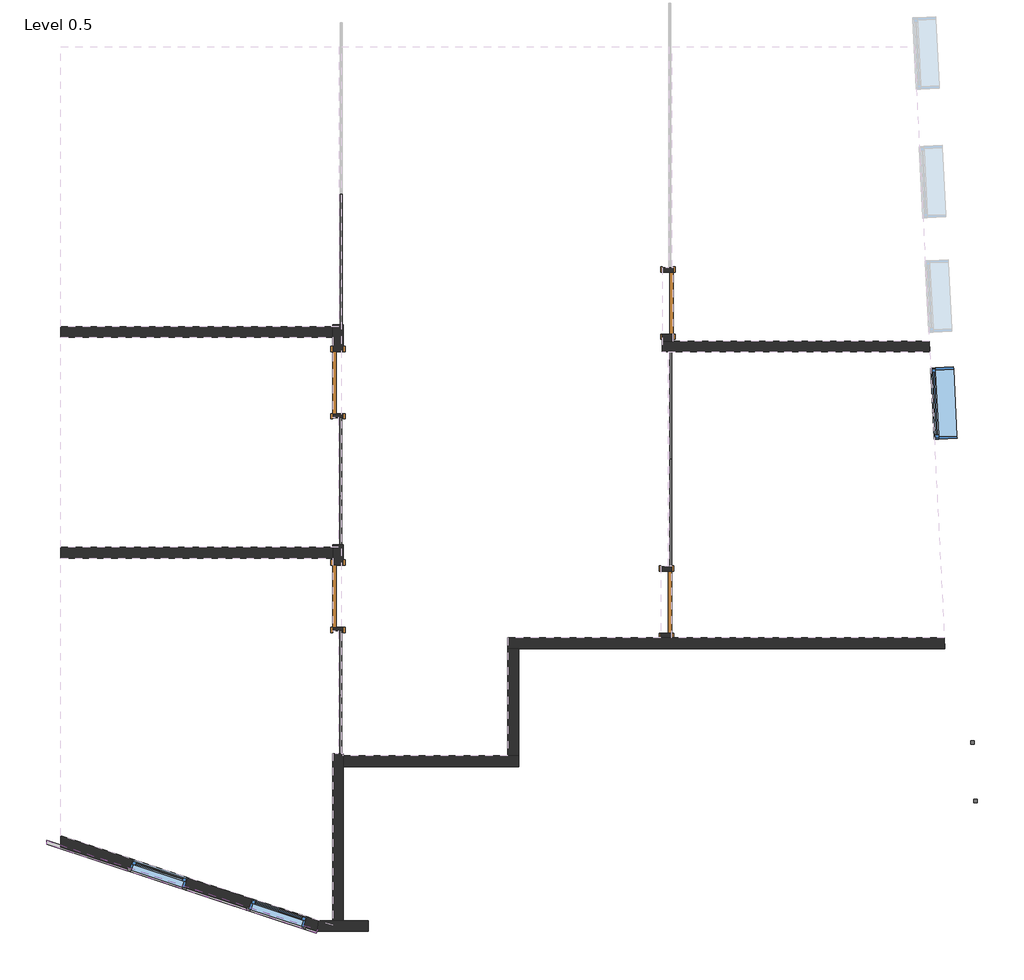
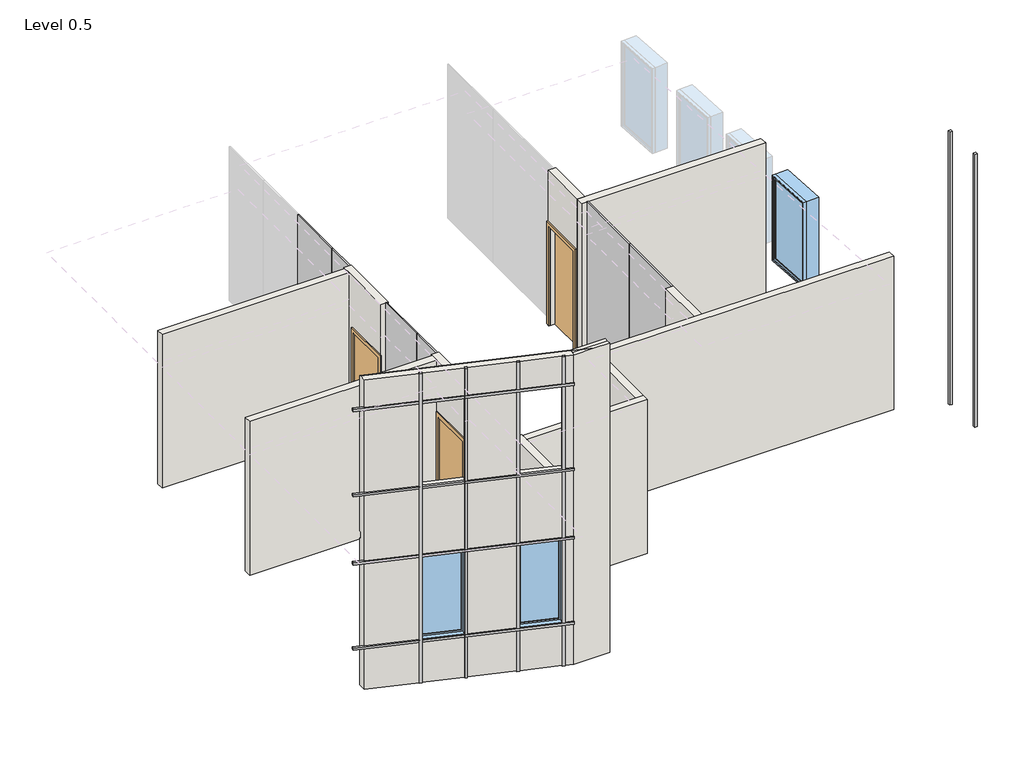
# One storey, part 1 of 3: 13 walls, 10 proxies, 8 plates, 4 doors, 3 windows.
"""IFC4 building model written with IfcOpenShell, lengths in millimetres."""

from ifc_helpers import new_model, si_unit, frame, origin, place, context, project, spatial, polyline, outline, extrude, faceted_brep, transform, mapped, element, save
from components import m_single_flush_0864_x_2134mm_191ab4f9, system_panel_glazed_aad28971, system_panel_glazed_77398edd, system_panel_glazed_36099b5c, system_panel_glazed_c9b22899, system_panel_glazed_ebff84d4, system_panel_glazed_b1d20705, system_panel_glazed_c9f14143, m_fixed_0815_x_1830mm_2_422ed95c, m_fixed_1000_x_1830mm_2_ae03b894

model = new_model("IFC4")

# Units and contexts
model_context = context("Model", 3, world=origin())
ifc_project = project(units=[si_unit("LENGTHUNIT", "METRE", prefix="MILLI")], contexts=[model_context])

# Site, building, storey
site = spatial("IfcSite", under=ifc_project)
building = spatial("IfcBuilding", under=site)
storey = spatial("IfcBuildingStorey", under=building, Name="Level 0.5", Elevation=1200.0)

# Proxies
placement = place(None, origin())
element("IfcBuildingElementProxy", 1, Name="Reveal", ObjectType="Reveal", at=placement, inside=storey, context=model_context, shape_type="SweptSolid", body=[
    extrude(outline(polyline([(12669.2063801, -15377.1775049), (12719.141693, -15374.6349607), (12721.6842372, -15424.5702735), (12671.7489244, -15427.1128178), (12669.2063801, -15377.1775049)])), frame((0.0, 0.0, 1981.0), z_axis=(0.0, 0.0, 1.0), x_axis=(1.0, 0.0, 0.0)), (0.0, 0.0, 1.0), 5869.0),
])
element("IfcBuildingElementProxy", 2, Name="Reveal", ObjectType="Reveal", at=placement, inside=storey, context=model_context, shape_type="SweptSolid", body=[
    extrude(outline(polyline([(12710.904106, -16196.1166356), (12760.8394189, -16193.5740913), (12763.3819631, -16243.5094042), (12713.4466503, -16246.0519484), (12710.904106, -16196.1166356)])), frame((0.0, 0.0, 1981.0), z_axis=(0.0, 0.0, 1.0), x_axis=(1.0, 0.0, 0.0)), (0.0, 0.0, 1.0), 5869.0),
])
element("IfcBuildingElementProxy", 3, Name="Reveal", ObjectType="Reveal", at=placement, inside=storey, context=model_context, shape_type="SweptSolid", body=[
    extrude(outline(polyline([(-250.0000039, -16822.8406854), (-250.0000039, -16770.1985601), (3533.8686372, -18016.4496943), (3518.2272196, -18063.9401781), (-250.0000039, -16822.8406854)])), frame((0.0, 0.0, 5375.0), z_axis=(0.0, 0.0, 1.0), x_axis=(1.0, 0.0, 0.0)), (0.0, 0.0, 1.0), 50.0),
])
element("IfcBuildingElementProxy", 4, Name="Reveal", ObjectType="Reveal", at=placement, inside=storey, context=model_context, shape_type="SweptSolid", body=[
    extrude(outline(polyline([(-250.0000039, -16822.8406854), (-250.0000039, -16770.1985601), (3533.8686372, -18016.4496943), (3518.2272196, -18063.9401781), (-250.0000039, -16822.8406854)])), frame((0.0, 0.0, 7205.0), z_axis=(0.0, 0.0, 1.0), x_axis=(1.0, 0.0, 0.0)), (0.0, 0.0, 1.0), 50.0),
])
element("IfcBuildingElementProxy", 5, Name="Reveal", ObjectType="Reveal", at=placement, inside=storey, context=model_context, shape_type="SweptSolid", body=[
    extrude(outline(polyline([(-250.0000039, -16822.8406854), (-250.0000039, -16770.1985601), (3533.8686372, -18016.4496943), (3518.2272196, -18063.9401781), (-250.0000039, -16822.8406854)])), frame((0.0, 0.0, 3905.0), z_axis=(0.0, 0.0, 1.0), x_axis=(1.0, 0.0, 0.0)), (0.0, 0.0, 1.0), 50.0),
])
element("IfcBuildingElementProxy", 6, Name="Reveal", ObjectType="Reveal", at=placement, inside=storey, context=model_context, shape_type="SweptSolid", body=[
    extrude(outline(polyline([(-250.0000039, -16822.8406854), (-250.0000039, -16770.1985601), (3533.8686372, -18016.4496943), (3518.2272196, -18063.9401781), (-250.0000039, -16822.8406854)])), frame((0.0, 0.0, 2075.0), z_axis=(0.0, 0.0, 1.0), x_axis=(1.0, 0.0, 0.0)), (0.0, 0.0, 1.0), 50.0),
])
element("IfcBuildingElementProxy", 7, Name="Reveal", ObjectType="Reveal", at=placement, inside=storey, context=model_context, shape_type="SweptSolid", body=[
    extrude(outline(polyline([(937.8412915, -17161.4247632), (922.1998739, -17208.9152471), (874.7093901, -17193.2738296), (890.3508076, -17145.7833457), (937.8412915, -17161.4247632)])), frame((0.0, 0.0, 1200.0), z_axis=(0.0, 0.0, 1.0), x_axis=(1.0, 0.0, 0.0)), (0.0, 0.0, 1.0), 6650.0),
])
element("IfcBuildingElementProxy", 8, Name="Reveal", ObjectType="Reveal", at=placement, inside=storey, context=model_context, shape_type="SweptSolid", body=[
    extrude(outline(polyline([(1711.9361783, -17416.3798693), (1696.2947608, -17463.8703532), (1648.8042769, -17448.2289356), (1664.4456945, -17400.7384518), (1711.9361783, -17416.3798693)])), frame((0.0, 0.0, 1200.0), z_axis=(0.0, 0.0, 1.0), x_axis=(1.0, 0.0, 0.0)), (0.0, 0.0, 1.0), 6650.0),
])
element("IfcBuildingElementProxy", 9, Name="Reveal", ObjectType="Reveal", at=placement, inside=storey, context=model_context, shape_type="SweptSolid", body=[
    extrude(outline(polyline([(2604.7572749, -17710.4385192), (2589.1158573, -17757.9290031), (2541.6253735, -17742.2875855), (2557.266791, -17694.7971017), (2604.7572749, -17710.4385192)])), frame((0.0, 0.0, 1200.0), z_axis=(0.0, 0.0, 1.0), x_axis=(1.0, 0.0, 0.0)), (0.0, 0.0, 1.0), 6650.0),
])
element("IfcBuildingElementProxy", 10, Name="Reveal", ObjectType="Reveal", at=placement, inside=storey, context=model_context, shape_type="SweptSolid", body=[
    extrude(outline(polyline([(3378.8521618, -17965.3936253), (3363.2107442, -18012.8841091), (3315.7202603, -17997.2426916), (3331.3616779, -17949.7522077), (3378.8521618, -17965.3936253)])), frame((0.0, 0.0, 1200.0), z_axis=(0.0, 0.0, 1.0), x_axis=(1.0, 0.0, 0.0)), (0.0, 0.0, 1.0), 6650.0),
])

# Doors
m_single_flush_0864_x_2134mm_shape = m_single_flush_0864_x_2134mm_191ab4f9(model_context)
element("IfcDoor", 11, ObjectType="M_Single-Flush : 0864 x 2134mm", at=placement, inside=storey, context=model_context, shape_type="MappedRepresentation", body=[
    mapped(m_single_flush_0864_x_2134mm_shape, transform((3824.6376114, -10369.5773389, 1200.0), x_axis=(0.0, 1.0, 0.0), y_axis=(-1.0, 0.0, 0.0), z_axis=(0.0, 0.0, 1.0))),
])
element("IfcDoor", 12, ObjectType="M_Single-Flush : 0864 x 2134mm", at=placement, inside=storey, context=model_context, shape_type="MappedRepresentation", body=[
    mapped(m_single_flush_0864_x_2134mm_shape, transform((3824.6376114, -13355.8791407, 1200.0), x_axis=(0.0, 1.0, 0.0), y_axis=(-1.0, 0.0, 0.0), z_axis=(0.0, 0.0, 1.0))),
])
element("IfcDoor", 13, ObjectType="M_Single-Flush : 0864 x 2134mm", at=placement, inside=storey, context=model_context, shape_type="MappedRepresentation", body=[
    mapped(m_single_flush_0864_x_2134mm_shape, transform((8435.4667664, -9258.0867626, 1200.0), x_axis=(0.0, -1.0, 0.0), y_axis=(1.0, 0.0, 0.0), z_axis=(0.0, 0.0, 1.0))),
])
element("IfcDoor", 14, ObjectType="M_Single-Flush : 0864 x 2134mm", at=placement, inside=storey, context=model_context, shape_type="MappedRepresentation", body=[
    mapped(m_single_flush_0864_x_2134mm_shape, transform((8414.4667664, -13438.8073472, 1200.0), x_axis=(0.0, -1.0, 0.0), y_axis=(1.0, 0.0, 0.0), z_axis=(0.0, 0.0, 1.0))),
])

# Plates
system_panel_glazed_shape = system_panel_glazed_aad28971(model_context)
element("IfcPlate", 15, ObjectType="System Panel : Glazed", at=placement, inside=storey, context=model_context, shape_type="MappedRepresentation", body=[
    mapped(system_panel_glazed_shape, transform((8439.9667664, -10690.0867626, 1200.0), x_axis=(0.0, -1.0, 0.0), y_axis=(1.0, 0.0, 0.0), z_axis=(0.0, 0.0, 1.0))),
])
element("IfcPlate", 16, ObjectType="System Panel : Glazed", at=placement, inside=storey, context=model_context, shape_type="MappedRepresentation", body=[
    mapped(system_panel_glazed_shape, transform((8439.9667664, -12190.0867626, 1200.0), x_axis=(0.0, -1.0, 0.0), y_axis=(1.0, 0.0, 0.0), z_axis=(0.0, 0.0, 1.0))),
])
system_panel_glazed_2_shape = system_panel_glazed_77398edd(model_context)
element("IfcPlate", 17, ObjectType="System Panel : Glazed", at=placement, inside=storey, context=model_context, shape_type="MappedRepresentation", body=[
    mapped(system_panel_glazed_2_shape, transform((3834.6376114, -8338.848693, 1200.0), x_axis=(0.0, -1.0, 0.0), y_axis=(1.0, 0.0, 0.0), z_axis=(0.0, 0.0, 1.0))),
])
system_panel_glazed_3_shape = system_panel_glazed_36099b5c(model_context)
element("IfcPlate", 18, ObjectType="System Panel : Glazed", at=placement, inside=storey, context=model_context, shape_type="MappedRepresentation", body=[
    mapped(system_panel_glazed_3_shape, transform((3834.6376114, -9248.848693, 1200.0), x_axis=(0.0, -1.0, 0.0), y_axis=(1.0, 0.0, 0.0), z_axis=(0.0, 0.0, 1.0))),
])
system_panel_glazed_4_shape = system_panel_glazed_c9b22899(model_context)
element("IfcPlate", 19, ObjectType="System Panel : Glazed", at=placement, inside=storey, context=model_context, shape_type="MappedRepresentation", body=[
    mapped(system_panel_glazed_4_shape, transform((3824.6376114, -11407.1675364, 1200.0), x_axis=(0.0, -1.0, 0.0), y_axis=(1.0, 0.0, 0.0), z_axis=(0.0, 0.0, 1.0))),
])
system_panel_glazed_5_shape = system_panel_glazed_ebff84d4(model_context)
element("IfcPlate", 20, ObjectType="System Panel : Glazed", at=placement, inside=storey, context=model_context, shape_type="MappedRepresentation", body=[
    mapped(system_panel_glazed_5_shape, transform((3824.6376114, -12297.1675364, 1200.0), x_axis=(0.0, -1.0, 0.0), y_axis=(1.0, 0.0, 0.0), z_axis=(0.0, 0.0, 1.0))),
])
system_panel_glazed_6_shape = system_panel_glazed_b1d20705(model_context)
element("IfcPlate", 21, ObjectType="System Panel : Glazed", at=placement, inside=storey, context=model_context, shape_type="MappedRepresentation", body=[
    mapped(system_panel_glazed_6_shape, transform((3824.6376114, -14287.1675364, 1200.0), x_axis=(0.0, -1.0, 0.0), y_axis=(1.0, 0.0, 0.0), z_axis=(0.0, 0.0, 1.0))),
])
system_panel_glazed_7_shape = system_panel_glazed_c9f14143(model_context)
element("IfcPlate", 22, ObjectType="System Panel : Glazed", at=placement, inside=storey, context=model_context, shape_type="MappedRepresentation", body=[
    mapped(system_panel_glazed_7_shape, transform((3824.6376114, -15147.1675364, 1200.0), x_axis=(0.0, -1.0, 0.0), y_axis=(1.0, 0.0, 0.0), z_axis=(0.0, 0.0, 1.0))),
])

# Walls
element("IfcWall", 23, ObjectType="Generic - 15cm-gypsum-kamposite 2", at=placement, inside=storey, context=model_context, shape_type="Brep", body=[
    faceted_brep([(-50.0000039, -16862.3914197, 7205.0), (-50.0000039, -16862.3914197, 5425.0), (882.5300988, -17169.5285876, 5425.0), (882.5300988, -17169.5285876, 7205.0), (-50.0000039, -16862.3914197, 7850.0), (-50.0000039, -16862.3914197, 7255.0), (882.5300988, -17169.5285876, 7255.0), (882.5300988, -17169.5285876, 7850.0), (-50.0000039, -16862.3914197, 5375.0), (-50.0000039, -16862.3914197, 3955.0), (882.5300988, -17169.5285876, 3955.0), (882.5300988, -17169.5285876, 5375.0), (-50.0000039, -16862.3914197, 2075.0), (-50.0000039, -16862.3914197, 1200.0), (882.5300988, -17169.5285876, 1200.0), (882.5300988, -17169.5285876, 2075.0), (-50.0000039, -16862.3914197, 3905.0), (-50.0000039, -16862.3914197, 2125.0), (882.5300988, -17169.5285876, 2125.0), (882.5300988, -17169.5285876, 3905.0), (930.0205827, -17185.1700052, 2075.0), (930.0205827, -17185.1700052, 1200.0), (1656.6249857, -17424.4836937, 1200.0), (1656.6249857, -17424.4836937, 2075.0), (930.0205827, -17185.1700052, 7850.0), (930.0205827, -17185.1700052, 7255.0), (1656.6249857, -17424.4836937, 7255.0), (1656.6249857, -17424.4836937, 7850.0), (930.0205827, -17185.1700052, 5375.0), (930.0205827, -17185.1700052, 3955.0), (1656.6249857, -17424.4836937, 3955.0), (1656.6249857, -17424.4836937, 5375.0), (1704.1154696, -17440.1251112, 7205.0), (1704.1154696, -17440.1251112, 5425.0), (2549.4460822, -17718.5423436, 5425.0), (2549.4460822, -17718.5423436, 7205.0), (1704.1154696, -17440.1251112, 3905.0), (1704.1154696, -17440.1251112, 2125.0), (2549.4460822, -17718.5423436, 2125.0), (2549.4460822, -17718.5423436, 3905.0), (1704.1154696, -17440.1251112, 7850.0), (1704.1154696, -17440.1251112, 7255.0), (2549.4460822, -17718.5423436, 7255.0), (2549.4460822, -17718.5423436, 7850.0), (1704.1154696, -17440.1251112, 5375.0), (1704.1154696, -17440.1251112, 3955.0), (2549.4460822, -17718.5423436, 3955.0), (2549.4460822, -17718.5423436, 5375.0), (1704.1154696, -17440.1251112, 2075.0), (1704.1154696, -17440.1251112, 1200.0), (2549.4460822, -17718.5423436, 1200.0), (2549.4460822, -17718.5423436, 2075.0), (2596.9365661, -17734.1837612, 7850.0), (2596.9365661, -17734.1837612, 7255.0), (3323.5409691, -17973.4974497, 7255.0), (3323.5409691, -17973.4974497, 7850.0), (2596.9365661, -17734.1837612, 5375.0), (2596.9365661, -17734.1837612, 3955.0), (3323.5409691, -17973.4974497, 3955.0), (3323.5409691, -17973.4974497, 5375.0), (2596.9365661, -17734.1837612, 2075.0), (2596.9365661, -17734.1837612, 1200.0), (3323.5409691, -17973.4974497, 1200.0), (3323.5409691, -17973.4974497, 2075.0), (3526.0479284, -18040.1949362, 5425.0), (3526.0479284, -18040.1949362, 7205.0), (3371.031453, -17989.1388672, 7205.0), (3371.031453, -17989.1388672, 5425.0), (3526.0479284, -18040.1949362, 7255.0), (3526.0479284, -18040.1949362, 7850.0), (3371.031453, -17989.1388672, 7850.0), (3371.031453, -17989.1388672, 7255.0), (3526.0479284, -18040.1949362, 3955.0), (3526.0479284, -18040.1949362, 5375.0), (3371.031453, -17989.1388672, 5375.0), (3371.031453, -17989.1388672, 3955.0), (3526.0479284, -18040.1949362, 1200.0), (3526.0479284, -18040.1949362, 2075.0), (3371.031453, -17989.1388672, 2075.0), (3371.031453, -17989.1388672, 1200.0), (3526.0479284, -18040.1949362, 2125.0), (3526.0479284, -18040.1949362, 3905.0), (3371.031453, -17989.1388672, 3905.0), (3371.031453, -17989.1388672, 2125.0), (3550.1139966, -17890.1949362, 1200.0), (-50.0000039, -16704.4650439, 1200.0), (-50.0000039, -16704.4650439, 4350.0), (3550.1139966, -17890.1949362, 4350.0), (2620.1155768, -17583.8916008, 3930.0), (2620.1155768, -17583.8916008, 2100.0), (3394.2104637, -17838.8467069, 2100.0), (3394.2104637, -17838.8467069, 3930.0), (953.1995934, -17034.8778448, 3930.0), (953.1995934, -17034.8778448, 2100.0), (1727.2944803, -17289.8329509, 2100.0), (1727.2944803, -17289.8329509, 3930.0), (-50.0000039, -16704.4650439, 4500.0), (-50.0000039, -16704.4650439, 7850.0), (3550.1139966, -17890.1949362, 7850.0), (3550.1139966, -17890.1949362, 4500.0), (953.1995934, -17034.8778448, 7230.0), (953.1995934, -17034.8778448, 5400.0), (1727.2944803, -17289.8329509, 5400.0), (1727.2944803, -17289.8329509, 7230.0), (2620.1155768, -17583.8916008, 7230.0), (2620.1155768, -17583.8916008, 5400.0), (3394.2104637, -17838.8467069, 5400.0), (3394.2104637, -17838.8467069, 7230.0), (3378.8521618, -17965.3936253, 1200.0), (3331.3616779, -17949.7522077, 1200.0), (2604.7572749, -17710.4385192, 1200.0), (2557.266791, -17694.7971017, 1200.0), (1711.9361783, -17416.3798693, 1200.0), (1664.4456945, -17400.7384518, 1200.0), (937.8412915, -17161.4247632, 1200.0), (890.3508076, -17145.7833457, 1200.0), (-50.0000039, -16836.0703571, 2075.0), (-50.0000039, -16836.0703571, 2125.0), (-50.0000039, -16836.0703571, 3905.0), (-50.0000039, -16836.0703571, 3955.0), (-50.0000039, -16836.0703571, 5375.0), (-50.0000039, -16836.0703571, 5425.0), (-50.0000039, -16836.0703571, 7205.0), (-50.0000039, -16836.0703571, 7255.0), (-50.0000039, -16725.521894, 7850.0), (-50.0000039, -16725.521894, 4500.0), (-50.0000039, -16725.521894, 4350.0), (3546.9051875, -17910.1949362, 4350.0), (3546.9051875, -17910.1949362, 4500.0), (890.3508076, -17145.7833457, 7850.0), (937.8412915, -17161.4247632, 7850.0), (1664.4456945, -17400.7384518, 7850.0), (1711.9361783, -17416.3798693, 7850.0), (2557.266791, -17694.7971017, 7850.0), (2604.7572749, -17710.4385192, 7850.0), (3331.3616779, -17949.7522077, 7850.0), (3378.8521618, -17965.3936253, 7850.0), (3546.9051875, -17910.1949362, 7850.0), (3530.0589398, -18015.1949362, 7255.0), (3530.0589398, -18015.1949362, 7205.0), (3530.0589398, -18015.1949362, 5425.0), (3530.0589398, -18015.1949362, 5375.0), (3530.0589398, -18015.1949362, 3955.0), (3530.0589398, -18015.1949362, 3905.0), (3530.0589398, -18015.1949362, 2125.0), (3530.0589398, -18015.1949362, 2075.0), (2581.0120329, -17702.6178105, 3930.0), (2581.0120329, -17702.6178105, 2100.0), (3355.1069198, -17957.5729165, 3930.0), (3355.1069198, -17957.5729165, 2100.0), (914.0960495, -17153.6040545, 3930.0), (914.0960495, -17153.6040545, 2100.0), (1688.1909364, -17408.5591605, 3930.0), (1688.1909364, -17408.5591605, 2100.0), (914.0960495, -17153.6040545, 7230.0), (914.0960495, -17153.6040545, 5400.0), (1688.1909364, -17408.5591605, 7230.0), (1688.1909364, -17408.5591605, 5400.0), (2581.0120329, -17702.6178105, 7230.0), (2581.0120329, -17702.6178105, 5400.0), (3355.1069198, -17957.5729165, 7230.0), (3355.1069198, -17957.5729165, 5400.0), (890.3508076, -17145.7833457, 5375.0), (890.3508076, -17145.7833457, 3955.0), (890.3508076, -17145.7833457, 3905.0), (890.3508076, -17145.7833457, 2125.0), (890.3508076, -17145.7833457, 2075.0), (937.8412915, -17161.4247632, 2075.0), (1664.4456945, -17400.7384518, 2075.0), (1711.9361783, -17416.3798693, 2075.0), (2557.266791, -17694.7971017, 2075.0), (2604.7572749, -17710.4385192, 2075.0), (3331.3616779, -17949.7522077, 2075.0), (3378.8521618, -17965.3936253, 2075.0), (3378.8521618, -17965.3936253, 2125.0), (3378.8521618, -17965.3936253, 3905.0), (3378.8521618, -17965.3936253, 3955.0), (3378.8521618, -17965.3936253, 5375.0), (3378.8521618, -17965.3936253, 5425.0), (3378.8521618, -17965.3936253, 7205.0), (3378.8521618, -17965.3936253, 7255.0), (3331.3616779, -17949.7522077, 7255.0), (2604.7572749, -17710.4385192, 7255.0), (2557.266791, -17694.7971017, 7255.0), (1711.9361783, -17416.3798693, 7255.0), (1664.4456945, -17400.7384518, 7255.0), (937.8412915, -17161.4247632, 7255.0), (890.3508076, -17145.7833457, 7255.0), (890.3508076, -17145.7833457, 7205.0), (890.3508076, -17145.7833457, 5425.0), (937.8412915, -17161.4247632, 3955.0), (937.8412915, -17161.4247632, 5375.0), (1664.4456945, -17400.7384518, 5375.0), (1664.4456945, -17400.7384518, 3955.0), (1711.9361783, -17416.3798693, 3955.0), (1711.9361783, -17416.3798693, 5375.0), (2557.266791, -17694.7971017, 5375.0), (2557.266791, -17694.7971017, 3955.0), (1711.9361783, -17416.3798693, 5425.0), (1711.9361783, -17416.3798693, 7205.0), (2557.266791, -17694.7971017, 7205.0), (2557.266791, -17694.7971017, 5425.0), (1711.9361783, -17416.3798693, 2125.0), (1711.9361783, -17416.3798693, 3905.0), (2557.266791, -17694.7971017, 3905.0), (2557.266791, -17694.7971017, 2125.0), (2604.7572749, -17710.4385192, 5375.0), (3331.3616779, -17949.7522077, 5375.0), (3331.3616779, -17949.7522077, 3955.0), (2604.7572749, -17710.4385192, 3955.0)], [[[0, 1, 2, 3]], [[4, 5, 6, 7]], [[8, 9, 10, 11]], [[12, 13, 14, 15]], [[16, 17, 18, 19]], [[20, 21, 22, 23]], [[24, 25, 26, 27]], [[28, 29, 30, 31]], [[32, 33, 34, 35]], [[36, 37, 38, 39]], [[40, 41, 42, 43]], [[44, 45, 46, 47]], [[48, 49, 50, 51]], [[52, 53, 54, 55]], [[56, 57, 58, 59]], [[60, 61, 62, 63]], [[64, 65, 66, 67]], [[68, 69, 70, 71]], [[72, 73, 74, 75]], [[76, 77, 78, 79]], [[80, 81, 82, 83]], [[84, 85, 86, 87], [88, 89, 90, 91], [92, 93, 94, 95]], [[96, 97, 98, 99], [100, 101, 102, 103], [104, 105, 106, 107]], [[85, 84, 76, 79, 108, 109, 62, 61, 110, 111, 50, 49, 112, 113, 22, 21, 114, 115, 14, 13]], [[85, 13, 12, 116, 117, 17, 16, 118, 119, 9, 8, 120, 121, 1, 0, 122, 123, 5, 4, 124, 97, 96, 125, 126, 86]], [[126, 127, 87, 86]], [[128, 125, 96, 99]], [[127, 126, 125, 128]], [[124, 4, 7, 129, 130, 24, 27, 131, 132, 40, 43, 133, 134, 52, 55, 135, 136, 70, 69, 137]], [[137, 98, 97, 124]], [[76, 84, 87, 127, 128, 99, 98, 137, 69, 68, 138, 139, 65, 64, 140, 141, 73, 72, 142, 143, 81, 80, 144, 145, 77]], [[89, 88, 146, 147]], [[88, 91, 148, 146]], [[91, 90, 149, 148]], [[90, 89, 147, 149]], [[93, 92, 150, 151]], [[92, 95, 152, 150]], [[95, 94, 153, 152]], [[94, 93, 151, 153]], [[101, 100, 154, 155]], [[100, 103, 156, 154]], [[103, 102, 157, 156]], [[102, 101, 155, 157]], [[105, 104, 158, 159]], [[104, 107, 160, 158]], [[107, 106, 161, 160]], [[106, 105, 159, 161]], [[121, 120, 162, 163, 119, 118, 164, 165, 117, 116, 166, 115, 114, 167, 168, 113, 112, 169, 170, 111, 110, 171, 172, 109, 108, 173, 145, 144, 174, 175, 143, 142, 176, 177, 141, 140, 178, 179, 139, 138, 180, 136, 135, 181, 182, 134, 133, 183, 184, 132, 131, 185, 186, 130, 129, 187, 123, 122, 188, 189], [190, 191, 192, 193], [151, 150, 152, 153], [155, 154, 156, 157], [194, 195, 196, 197], [198, 199, 200, 201], [202, 203, 204, 205], [159, 158, 160, 161], [147, 146, 148, 149], [206, 207, 208, 209]], [[120, 8, 11, 162]], [[191, 28, 31, 192]], [[195, 44, 47, 196]], [[206, 56, 59, 207]], [[73, 141, 177, 74]], [[1, 121, 189, 2]], [[33, 198, 201, 34]], [[140, 64, 67, 178]], [[122, 0, 3, 188]], [[199, 32, 35, 200]], [[65, 139, 179, 66]], [[5, 123, 187, 6]], [[25, 186, 185, 26]], [[41, 184, 183, 42]], [[53, 182, 181, 54]], [[138, 68, 71, 180]], [[118, 16, 19, 164]], [[203, 36, 39, 204]], [[81, 143, 175, 82]], [[9, 119, 163, 10]], [[29, 190, 193, 30]], [[45, 194, 197, 46]], [[57, 209, 208, 58]], [[142, 72, 75, 176]], [[116, 12, 15, 166]], [[167, 20, 23, 168]], [[169, 48, 51, 170]], [[171, 60, 63, 172]], [[77, 145, 173, 78]], [[17, 117, 165, 18]], [[37, 202, 205, 38]], [[144, 80, 83, 174]], [[187, 129, 7, 6]], [[189, 188, 3, 2]], [[163, 162, 11, 10]], [[165, 164, 19, 18]], [[115, 166, 15, 14]], [[130, 186, 25, 24]], [[191, 190, 29, 28]], [[167, 114, 21, 20]], [[185, 131, 27, 26]], [[193, 192, 31, 30]], [[113, 168, 23, 22]], [[132, 184, 41, 40]], [[195, 194, 45, 44]], [[199, 198, 33, 32]], [[203, 202, 37, 36]], [[169, 112, 49, 48]], [[183, 133, 43, 42]], [[197, 196, 47, 46]], [[201, 200, 35, 34]], [[205, 204, 39, 38]], [[111, 170, 51, 50]], [[134, 182, 53, 52]], [[206, 209, 57, 56]], [[171, 110, 61, 60]], [[181, 135, 55, 54]], [[208, 207, 59, 58]], [[109, 172, 63, 62]], [[136, 180, 71, 70]], [[177, 176, 75, 74]], [[179, 178, 67, 66]], [[175, 174, 83, 82]], [[173, 108, 79, 78]]]),
])
element("IfcWall", 24, ObjectType="Generic - 15cm-gypsum-kamposite 2", at=placement, inside=storey, context=model_context, shape_type="Brep", body=[
    faceted_brep([(4250.0200506, -17890.1949362, 7850.0), (4250.0200506, -17890.1949362, 4500.0), (3550.1139966, -17890.1949362, 4500.0), (3550.1139966, -17890.1949362, 7850.0), (4250.0200506, -17890.1949362, 1200.0), (3899.6376114, -17890.1949362, 1200.0), (3749.6376114, -17890.1949362, 1200.0), (3550.1139966, -17890.1949362, 1200.0), (3550.1139966, -17890.1949362, 4350.0), (4250.0200506, -17890.1949362, 4350.0), (3526.0479284, -18040.1949362, 1200.0), (4250.0200506, -18040.1949362, 1200.0), (4250.0200506, -18040.1949362, 4500.0), (4250.0200506, -18040.1949362, 7850.0), (3941.6112863, -18040.1949362, 7850.0), (3526.0479284, -18040.1949362, 7850.0), (3526.0479284, -18040.1949362, 7255.0), (3526.0479284, -18040.1949362, 7205.0), (3526.0479284, -18040.1949362, 5425.0), (3526.0479284, -18040.1949362, 5375.0), (3526.0479284, -18040.1949362, 3955.0), (3526.0479284, -18040.1949362, 3905.0), (3526.0479284, -18040.1949362, 2125.0), (3526.0479284, -18040.1949362, 2075.0), (4250.0200506, -17910.1949362, 4350.0), (4250.0200506, -17910.1949362, 4500.0), (4250.0200506, -17965.5937279, 7850.0), (3546.9051875, -17910.1949362, 4350.0), (3546.9051875, -17910.1949362, 4500.0), (3546.9051875, -17910.1949362, 7850.0), (3538.0169802, -17965.5937279, 7850.0), (3715.1070409, -17965.5937279, 7850.0), (3530.0589398, -18015.1949362, 2075.0), (3530.0589398, -18015.1949362, 2125.0), (3530.0589398, -18015.1949362, 3905.0), (3530.0589398, -18015.1949362, 3955.0), (3530.0589398, -18015.1949362, 5375.0), (3530.0589398, -18015.1949362, 5425.0), (3530.0589398, -18015.1949362, 7205.0), (3530.0589398, -18015.1949362, 7255.0), (3533.8686372, -18016.4496943, 5425.0), (3533.8686372, -18016.4496943, 5375.0), (3533.8686372, -18016.4496943, 7255.0), (3533.8686372, -18016.4496943, 7205.0), (3533.8686372, -18016.4496943, 3955.0), (3533.8686372, -18016.4496943, 3905.0), (3533.8686372, -18016.4496943, 2125.0), (3533.8686372, -18016.4496943, 2075.0)], [[[0, 1, 2, 3]], [[4, 5, 6, 7, 8, 9]], [[10, 11, 12, 13, 14, 15, 16, 17, 18, 19, 20, 21, 22, 23]], [[7, 6, 5, 4, 11, 10]], [[13, 12, 11, 4, 9, 24, 25, 1, 0, 26]], [[27, 24, 9, 8]], [[25, 28, 2, 1]], [[24, 27, 28, 25]], [[29, 30, 31]], [[13, 26, 31, 14]], [[30, 15, 14, 31]], [[0, 3, 29, 31, 26]], [[7, 10, 23, 32, 33, 22, 21, 34, 35, 20, 19, 36, 37, 18, 17, 38, 39, 16, 15, 30, 29, 3, 2, 28, 27, 8]], [[40, 41, 19, 18]], [[41, 40, 37, 36]], [[19, 41, 36]], [[40, 18, 37]], [[42, 43, 17, 16]], [[43, 42, 39, 38]], [[17, 43, 38]], [[42, 16, 39]], [[44, 45, 21, 20]], [[45, 44, 35, 34]], [[21, 45, 34]], [[44, 20, 35]], [[46, 47, 23, 22]], [[47, 46, 33, 32]], [[23, 47, 32]], [[46, 22, 33]]]),
])
element("IfcWall", 25, ObjectType="Generic - 15cm-gypsu-2boith", at=placement, inside=storey, context=model_context, shape_type="SweptSolid", body=[
    extrude(outline(polyline([(-50.0000039, -12673.8791407), (3749.6376114, -12673.8791407), (3749.6376114, -12823.8791407), (-50.0000039, -12823.8791407), (-50.0000039, -12673.8791407)])), frame((0.0, 0.0, 1200.0), z_axis=(0.0, 0.0, 1.0), x_axis=(1.0, 0.0, 0.0)), (0.0, 0.0, 1.0), 3300.0),
])
element("IfcWall", 26, ObjectType="Generic - 15cm-gypsu-2boith", at=placement, inside=storey, context=model_context, shape_type="SweptSolid", body=[
    extrude(outline(polyline([(-48.7142884, -9587.5773389), (3749.6376114, -9587.5773389), (3749.6376114, -9737.5773389), (-48.7142884, -9737.5773389), (-48.7142884, -9587.5773389)])), frame((0.0, 0.0, 1200.0), z_axis=(0.0, 0.0, 1.0), x_axis=(1.0, 0.0, 0.0)), (0.0, 0.0, 1.0), 3300.0),
])
element("IfcWall", 27, ObjectType="Generic - 15cm-granit&gypsum", at=placement, inside=storey, context=model_context, shape_type="Brep", body=[
    faceted_brep([(12300.5219419, -13937.5279318, 1200.0), (8489.4667664, -13937.5279318, 1200.0), (8339.4667664, -13937.5279318, 1200.0), (6199.6376114, -13937.5279318, 1200.0), (6199.6376114, -13937.5279318, 4500.0), (8339.4667664, -13937.5279318, 4500.0), (8489.4667664, -13937.5279318, 4500.0), (12300.5219419, -13937.5279318, 4500.0), (12308.1594557, -14087.5279318, 1200.0), (12308.1594557, -14087.5279318, 4500.0), (6349.6376114, -14087.5279318, 4500.0), (6199.6376114, -14087.5279318, 4500.0), (6199.6376114, -14087.5279318, 1200.0), (6349.6376114, -14087.5279318, 1200.0)], [[[0, 1, 2, 3, 4, 5, 6, 7]], [[8, 9, 10, 11, 12, 13]], [[3, 2, 1, 0, 8, 13, 12]], [[7, 6, 5, 4, 11, 10, 9]], [[0, 7, 9, 8]], [[4, 3, 12, 11]]]),
])
element("IfcWall", 28, ObjectType="Generic - 15cm-gypsu-2boith", at=placement, inside=storey, context=model_context, shape_type="Brep", body=[
    faceted_brep([(8360.4667664, -9940.0867626, 1200.0), (12096.9851954, -9940.0867626, 1200.0), (12096.9851954, -9940.0867626, 4500.0), (8360.4667664, -9940.0867626, 4500.0), (8360.4667664, -9790.0867626, 1200.0), (8360.4667664, -9790.0867626, 4500.0), (8510.4667664, -9790.0867626, 4500.0), (12089.3476816, -9790.0867626, 4500.0), (12089.3476816, -9790.0867626, 1200.0), (8510.4667664, -9790.0867626, 1200.0)], [[[0, 1, 2, 3]], [[4, 5, 6, 7, 8, 9]], [[1, 0, 4, 9, 8]], [[3, 2, 7, 6, 5]], [[2, 1, 8, 7]], [[0, 3, 5, 4]]]),
])
element("IfcWall", 29, ObjectType="Generic - 15cm-granit&gypsum", at=placement, inside=storey, context=model_context, shape_type="Brep", body=[
    faceted_brep([(3899.6376114, -15737.5279318, 1200.0), (6349.6376114, -15737.5279318, 1200.0), (6349.6376114, -15737.5279318, 4500.0), (3899.6376114, -15737.5279318, 4500.0), (3899.6376114, -15587.5279318, 1200.0), (3899.6376114, -15587.5279318, 4500.0), (6199.6376114, -15587.5279318, 4500.0), (6349.6376114, -15587.5279318, 4500.0), (6349.6376114, -15587.5279318, 1200.0), (6199.6376114, -15587.5279318, 1200.0)], [[[0, 1, 2, 3]], [[4, 5, 6, 7, 8, 9]], [[1, 0, 4, 9, 8]], [[3, 2, 7, 6, 5]], [[0, 3, 5, 4]], [[2, 1, 8, 7]]]),
])
element("IfcWall", 30, ObjectType="Generic - 15cm-granit&gypsum", at=placement, inside=storey, context=model_context, shape_type="SweptSolid", body=[
    extrude(outline(polyline([(6349.6376114, -14087.5279318), (6349.6376114, -15587.5279318), (6199.6376114, -15587.5279318), (6199.6376114, -14087.5279318), (6349.6376114, -14087.5279318)])), frame((0.0, 0.0, 1200.0), z_axis=(0.0, 0.0, 1.0), x_axis=(1.0, 0.0, 0.0)), (0.0, 0.0, 1.0), 3300.0),
])
element("IfcWall", 31, ObjectType="Generic - 15cm-gypsu-2boith", at=placement, inside=storey, context=model_context, shape_type="SweptSolid", body=[
    extrude(outline(polyline([(-13870.8073472, 3334.0), (-13870.8073472, 1200.0), (-13937.5279318, 1200.0), (-13937.5279318, 4500.0), (-12940.0867626, 4500.0), (-12940.0867626, 1200.0), (-13006.8073472, 1200.0), (-13006.8073472, 3334.0), (-13870.8073472, 3334.0)])), frame((8339.4667664, 0.0, 0.0), z_axis=(1.0, 0.0, 0.0), x_axis=(0.0, 1.0, 0.0)), (0.0, 0.0, 1.0), 150.0),
])
element("IfcWall", 32, ObjectType="Generic - 15cm-gypsu-2boith", at=placement, inside=storey, context=model_context, shape_type="SweptSolid", body=[
    extrude(outline(polyline([(-9690.0867626, 3334.0), (-9690.0867626, 1200.0), (-9790.0867626, 1200.0), (-9790.0867626, 4500.0), (-8765.0867626, 4500.0), (-8765.0867626, 1200.0), (-8826.0867626, 1200.0), (-8826.0867626, 3334.0), (-9690.0867626, 3334.0)])), frame((8360.4667664, 0.0, 0.0), z_axis=(1.0, 0.0, 0.0), x_axis=(0.0, 1.0, 0.0)), (0.0, 0.0, 1.0), 150.0),
])
element("IfcWall", 33, ObjectType="Generic - 15cm-granit&gypsum", at=placement, inside=storey, context=model_context, shape_type="Brep", body=[
    faceted_brep([(3749.6376114, -10857.1675364, 1200.0), (3749.6376114, -10857.1675364, 4500.0), (3749.6376114, -9737.5773389, 4500.0), (3749.6376114, -9587.5773389, 4500.0), (3749.6376114, -9557.1675364, 4500.0), (3749.6376114, -9557.1675364, 1200.0), (3749.6376114, -9587.5773389, 1200.0), (3749.6376114, -9737.5773389, 1200.0), (3749.6376114, -9937.5773389, 1200.0), (3749.6376114, -9937.5773389, 3334.0), (3749.6376114, -10801.5773389, 3334.0), (3749.6376114, -10801.5773389, 1200.0), (3899.6376114, -10857.1675364, 4500.0), (3899.6376114, -10857.1675364, 1200.0), (3899.6376114, -10801.5773389, 1200.0), (3899.6376114, -10801.5773389, 3334.0), (3899.6376114, -9937.5773389, 3334.0), (3899.6376114, -9937.5773389, 1200.0), (3899.6376114, -9557.1675364, 1200.0), (3899.6376114, -9557.1675364, 4500.0)], [[[0, 1, 2, 3, 4, 5, 6, 7, 8, 9, 10, 11]], [[12, 13, 14, 15, 16, 17, 18, 19]], [[13, 0, 11, 14]], [[5, 18, 17, 8, 7, 6]], [[1, 0, 13, 12]], [[4, 3, 2, 1, 12, 19]], [[5, 4, 19, 18]], [[16, 9, 8, 17]], [[9, 16, 15, 10]], [[10, 15, 14, 11]]]),
])
element("IfcWall", 34, ObjectType="Generic - 15cm-granit&gypsum", at=placement, inside=storey, context=model_context, shape_type="Brep", body=[
    faceted_brep([(3749.6376114, -13837.1675364, 1200.0), (3749.6376114, -13837.1675364, 4500.0), (3749.6376114, -12823.8791407, 4500.0), (3749.6376114, -12673.8791407, 4500.0), (3749.6376114, -12637.1675364, 4500.0), (3749.6376114, -12637.1675364, 1200.0), (3749.6376114, -12673.8791407, 1200.0), (3749.6376114, -12823.8791407, 1200.0), (3749.6376114, -12923.8791407, 1200.0), (3749.6376114, -12923.8791407, 3334.0), (3749.6376114, -13787.8791407, 3334.0), (3749.6376114, -13787.8791407, 1200.0), (3899.6376114, -13837.1675364, 4500.0), (3899.6376114, -13837.1675364, 1200.0), (3899.6376114, -13787.8791407, 1200.0), (3899.6376114, -13787.8791407, 3334.0), (3899.6376114, -12923.8791407, 3334.0), (3899.6376114, -12923.8791407, 1200.0), (3899.6376114, -12637.1675364, 1200.0), (3899.6376114, -12637.1675364, 4500.0)], [[[0, 1, 2, 3, 4, 5, 6, 7, 8, 9, 10, 11]], [[12, 13, 14, 15, 16, 17, 18, 19]], [[13, 0, 11, 14]], [[5, 18, 17, 8, 7, 6]], [[1, 0, 13, 12]], [[4, 3, 2, 1, 12, 19]], [[5, 4, 19, 18]], [[16, 9, 8, 17]], [[9, 16, 15, 10]], [[10, 15, 14, 11]]]),
])
element("IfcWall", 35, ObjectType="Generic - 15cm-granit&gypsum", at=placement, inside=storey, context=model_context, shape_type="Brep", body=[
    faceted_brep([(3749.6376114, -15557.1675364, 1200.0), (3749.6376114, -17890.1949362, 1200.0), (3749.6376114, -17890.1949362, 4500.0), (3749.6376114, -15557.1675364, 4500.0), (3899.6376114, -15557.1675364, 1200.0), (3899.6376114, -15557.1675364, 4500.0), (3899.6376114, -15587.5279318, 4500.0), (3899.6376114, -15737.5279318, 4500.0), (3899.6376114, -17890.1949362, 4500.0), (3899.6376114, -17890.1949362, 1200.0), (3899.6376114, -15737.5279318, 1200.0), (3899.6376114, -15587.5279318, 1200.0)], [[[0, 1, 2, 3]], [[4, 5, 6, 7, 8, 9, 10, 11]], [[1, 0, 4, 11, 10, 9]], [[3, 2, 8, 7, 6, 5]], [[0, 3, 5, 4]], [[2, 1, 9, 8]]]),
])

# Windows
m_fixed_0815_x_1830mm_2_shape = m_fixed_0815_x_1830mm_2_422ed95c(model_context)
element("IfcWindow", 36, ObjectType="M_Fixed : 0815 x 1830mm 2", at=placement, inside=storey, context=model_context, shape_type="MappedRepresentation", body=[
    mapped(m_fixed_0815_x_1830mm_2_shape, transform((2979.6341254, -17794.9524054, 1795.0), x_axis=(0.94980967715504, -0.31282835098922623, 0.0), y_axis=(0.31282835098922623, 0.94980967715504, 0.0), z_axis=(0.0, 0.0, 1.0))),
])
element("IfcWindow", 37, ObjectType="M_Fixed : 0815 x 1830mm 2", at=placement, inside=storey, context=model_context, shape_type="MappedRepresentation", body=[
    mapped(m_fixed_0815_x_1830mm_2_shape, transform((1312.718142, -17245.9386494, 1795.0), x_axis=(0.94980967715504, -0.31282835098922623, 0.0), y_axis=(0.31282835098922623, 0.94980967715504, 0.0), z_axis=(0.0, 0.0, 1.0))),
])
m_fixed_1000_x_1830mm_2_shape = m_fixed_1000_x_1830mm_2_ae03b894(model_context)
element("IfcWindow", 38, ObjectType="M_Fixed : 1000 x 1830mm 2", at=placement, inside=storey, context=model_context, shape_type="MappedRepresentation", body=[
    mapped(m_fixed_1000_x_1830mm_2_shape, transform((12306.6771057, -10656.3107299, 1795.0), x_axis=(-0.05085088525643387, 0.9987062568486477, 0.0), y_axis=(-0.9987062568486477, -0.05085088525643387, 0.0), z_axis=(0.0, 0.0, 1.0))),
])

save(model, "model.ifc")
